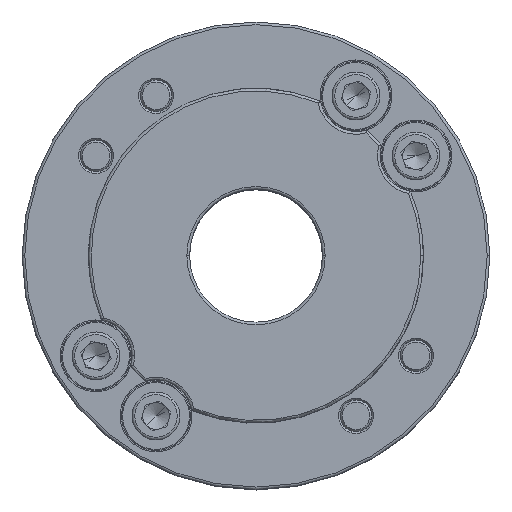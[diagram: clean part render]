
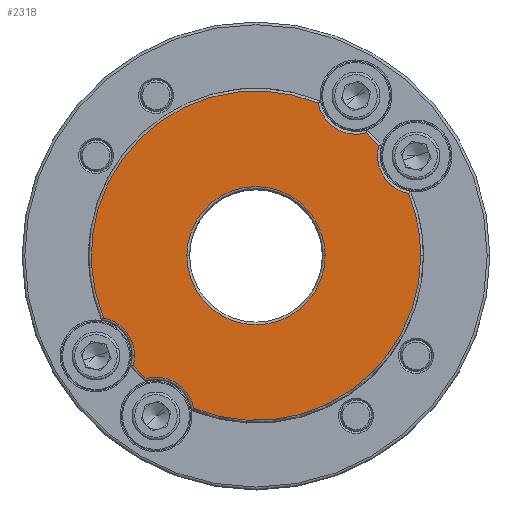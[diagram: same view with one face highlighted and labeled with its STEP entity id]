
A CAD part, top view. The second image highlights one B-rep face of the part: STEP entity #2318.
In plain terms, the highlighted planar face has unit normal (0, 0, 1).
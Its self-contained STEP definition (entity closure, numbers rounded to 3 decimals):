
#1749 = EDGE_CURVE ( 'NONE', #1750, #1751, #4729, .T. ) ;
#1750 = VERTEX_POINT ( 'NONE', #4749 ) ;
#1751 = VERTEX_POINT ( 'NONE', #4748 ) ;
#1790 = VERTEX_POINT ( 'NONE', #4862 ) ;
#1792 = EDGE_CURVE ( 'NONE', #1793, #1790, #4861, .T. ) ;
#1793 = VERTEX_POINT ( 'NONE', #4856 ) ;
#1881 = VERTEX_POINT ( 'NONE', #5094 ) ;
#1883 = EDGE_CURVE ( 'NONE', #1881, #1884, #5093, .T. ) ;
#1884 = VERTEX_POINT ( 'NONE', #5088 ) ;
#1954 = ORIENTED_EDGE ( 'NONE', *, *, #1955, .T. ) ;
#1955 = EDGE_CURVE ( 'NONE', #2264, #1750, #5219, .T. ) ;
#1956 = ORIENTED_EDGE ( 'NONE', *, *, #1749, .T. ) ;
#1957 = ORIENTED_EDGE ( 'NONE', *, *, #1958, .T. ) ;
#1958 = EDGE_CURVE ( 'NONE', #1751, #1959, #5178, .T. ) ;
#1959 = VERTEX_POINT ( 'NONE', #5173 ) ;
#1960 = ORIENTED_EDGE ( 'NONE', *, *, #1961, .T. ) ;
#1961 = EDGE_CURVE ( 'NONE', #1959, #1793, #5208, .T. ) ;
#1979 = ORIENTED_EDGE ( 'NONE', *, *, #1792, .T. ) ;
#1980 = ORIENTED_EDGE ( 'NONE', *, *, #1981, .T. ) ;
#1981 = EDGE_CURVE ( 'NONE', #1790, #2116, #5145, .T. ) ;
#2113 = EDGE_LOOP ( 'NONE', ( #2114, #2118, #2121, #2262, #1954, #1956, #1957, #1960, #1979, #1980 ) ) ;
#2114 = ORIENTED_EDGE ( 'NONE', *, *, #2115, .T. ) ;
#2115 = EDGE_CURVE ( 'NONE', #2116, #2117, #5547, .T. ) ;
#2116 = VERTEX_POINT ( 'NONE', #5542 ) ;
#2117 = VERTEX_POINT ( 'NONE', #5541 ) ;
#2118 = ORIENTED_EDGE ( 'NONE', *, *, #2119, .T. ) ;
#2119 = EDGE_CURVE ( 'NONE', #2117, #2120, #5703, .T. ) ;
#2120 = VERTEX_POINT ( 'NONE', #5704 ) ;
#2121 = ORIENTED_EDGE ( 'NONE', *, *, #2228, .T. ) ;
#2227 = ORIENTED_EDGE ( 'NONE', *, *, #1883, .T. ) ;
#2228 = EDGE_CURVE ( 'NONE', #2120, #2229, #5631, .T. ) ;
#2229 = VERTEX_POINT ( 'NONE', #5627 ) ;
#2262 = ORIENTED_EDGE ( 'NONE', *, *, #2263, .T. ) ;
#2263 = EDGE_CURVE ( 'NONE', #2229, #2264, #5646, .T. ) ;
#2264 = VERTEX_POINT ( 'NONE', #5642 ) ;
#2318 = ADVANCED_FACE ( 'NONE', ( #5846, #5821 ), #5827, .T. ) ;
#2319 = EDGE_LOOP ( 'NONE', ( #2320, #2227 ) ) ;
#2320 = ORIENTED_EDGE ( 'NONE', *, *, #2321, .T. ) ;
#2321 = EDGE_CURVE ( 'NONE', #1884, #1881, #5968, .T. ) ;
#4725 = DIRECTION ( 'NONE',  ( 1., 0., 0. ) ) ;
#4726 = DIRECTION ( 'NONE',  ( 0., 0., -1. ) ) ;
#4727 = CARTESIAN_POINT ( 'NONE',  ( -30.106, -18.812, 30. ) ) ;
#4728 = AXIS2_PLACEMENT_3D ( 'NONE', #4727, #4726, #4725 ) ;
#4729 = CIRCLE ( 'NONE', #4728, 7.25 ) ;
#4748 = CARTESIAN_POINT ( 'NONE',  ( -23.099, -20.675, 30. ) ) ;
#4749 = CARTESIAN_POINT ( 'NONE',  ( -22.856, -18.812, 30. ) ) ;
#4856 = CARTESIAN_POINT ( 'NONE',  ( -11.698, -28.708, 30. ) ) ;
#4857 = DIRECTION ( 'NONE',  ( 1., 0., 0. ) ) ;
#4858 = DIRECTION ( 'NONE',  ( 0., 0., 1. ) ) ;
#4859 = CARTESIAN_POINT ( 'NONE',  ( 0., 0., 30. ) ) ;
#4860 = AXIS2_PLACEMENT_3D ( 'NONE', #4859, #4858, #4857 ) ;
#4861 = CIRCLE ( 'NONE', #4860, 31. ) ;
#4862 = CARTESIAN_POINT ( 'NONE',  ( 31., 0., 30. ) ) ;
#5088 = CARTESIAN_POINT ( 'NONE',  ( 13., 0., 30. ) ) ;
#5089 = DIRECTION ( 'NONE',  ( 1., 0., 0. ) ) ;
#5090 = DIRECTION ( 'NONE',  ( 0., 0., -1. ) ) ;
#5091 = CARTESIAN_POINT ( 'NONE',  ( 0., 0., 30. ) ) ;
#5092 = AXIS2_PLACEMENT_3D ( 'NONE', #5091, #5090, #5089 ) ;
#5093 = CIRCLE ( 'NONE', #5092, 13. ) ;
#5094 = CARTESIAN_POINT ( 'NONE',  ( -13., 0., 30. ) ) ;
#5141 = DIRECTION ( 'NONE',  ( 1., 0., 0. ) ) ;
#5142 = DIRECTION ( 'NONE',  ( 0., 0., 1. ) ) ;
#5143 = CARTESIAN_POINT ( 'NONE',  ( 0., 0., 30. ) ) ;
#5144 = AXIS2_PLACEMENT_3D ( 'NONE', #5143, #5142, #5141 ) ;
#5145 = CIRCLE ( 'NONE', #5144, 31. ) ;
#5157 = DIRECTION ( 'NONE',  ( 1., 0., 0. ) ) ;
#5169 = DIRECTION ( 'NONE',  ( 0., 0., -1. ) ) ;
#5170 = CARTESIAN_POINT ( 'NONE',  ( -30.106, -18.812, 30. ) ) ;
#5171 = AXIS2_PLACEMENT_3D ( 'NONE', #5170, #5169, #5157 ) ;
#5173 = CARTESIAN_POINT ( 'NONE',  ( -20.675, -23.099, 30. ) ) ;
#5174 = DIRECTION ( 'NONE',  ( 1., 0., 0. ) ) ;
#5175 = DIRECTION ( 'NONE',  ( 0., 0., 1. ) ) ;
#5176 = CARTESIAN_POINT ( 'NONE',  ( 0., 0., 30. ) ) ;
#5177 = AXIS2_PLACEMENT_3D ( 'NONE', #5176, #5175, #5174 ) ;
#5178 = CIRCLE ( 'NONE', #5177, 31. ) ;
#5204 = DIRECTION ( 'NONE',  ( 1., 0., 0. ) ) ;
#5205 = DIRECTION ( 'NONE',  ( 0., 0., -1. ) ) ;
#5206 = CARTESIAN_POINT ( 'NONE',  ( -18.812, -30.106, 30. ) ) ;
#5207 = AXIS2_PLACEMENT_3D ( 'NONE', #5206, #5205, #5204 ) ;
#5208 = CIRCLE ( 'NONE', #5207, 7.25 ) ;
#5219 = CIRCLE ( 'NONE', #5171, 7.25 ) ;
#5541 = CARTESIAN_POINT ( 'NONE',  ( 23.099, 20.675, 30. ) ) ;
#5542 = CARTESIAN_POINT ( 'NONE',  ( 28.708, 11.698, 30. ) ) ;
#5543 = DIRECTION ( 'NONE',  ( 1., 0., 0. ) ) ;
#5544 = DIRECTION ( 'NONE',  ( 0., 0., -1. ) ) ;
#5545 = CARTESIAN_POINT ( 'NONE',  ( 30.106, 18.812, 30. ) ) ;
#5546 = AXIS2_PLACEMENT_3D ( 'NONE', #5545, #5544, #5543 ) ;
#5547 = CIRCLE ( 'NONE', #5546, 7.25 ) ;
#5627 = CARTESIAN_POINT ( 'NONE',  ( 11.698, 28.708, 30. ) ) ;
#5628 = DIRECTION ( 'NONE',  ( 1., 0., 0. ) ) ;
#5629 = DIRECTION ( 'NONE',  ( 0., 0., -1. ) ) ;
#5630 = AXIS2_PLACEMENT_3D ( 'NONE', #5637, #5629, #5628 ) ;
#5631 = CIRCLE ( 'NONE', #5630, 7.25 ) ;
#5637 = CARTESIAN_POINT ( 'NONE',  ( 18.812, 30.106, 30. ) ) ;
#5642 = CARTESIAN_POINT ( 'NONE',  ( -28.708, -11.698, 30. ) ) ;
#5643 = DIRECTION ( 'NONE',  ( 1., 0., 0. ) ) ;
#5644 = DIRECTION ( 'NONE',  ( 0., 0., 1. ) ) ;
#5645 = AXIS2_PLACEMENT_3D ( 'NONE', #5650, #5644, #5643 ) ;
#5646 = CIRCLE ( 'NONE', #5645, 31. ) ;
#5650 = CARTESIAN_POINT ( 'NONE',  ( 0., 0., 30. ) ) ;
#5699 = DIRECTION ( 'NONE',  ( 1., 0., 0. ) ) ;
#5700 = DIRECTION ( 'NONE',  ( 0., 0., 1. ) ) ;
#5701 = CARTESIAN_POINT ( 'NONE',  ( 0., 0., 30. ) ) ;
#5702 = AXIS2_PLACEMENT_3D ( 'NONE', #5701, #5700, #5699 ) ;
#5703 = CIRCLE ( 'NONE', #5702, 31. ) ;
#5704 = CARTESIAN_POINT ( 'NONE',  ( 20.675, 23.099, 30. ) ) ;
#5821 = FACE_OUTER_BOUND ( 'NONE', #2113, .T. ) ;
#5823 = DIRECTION ( 'NONE',  ( 1., 0., 0. ) ) ;
#5824 = DIRECTION ( 'NONE',  ( 0., 0., 1. ) ) ;
#5825 = CARTESIAN_POINT ( 'NONE',  ( 0., -96.941, 30. ) ) ;
#5826 = AXIS2_PLACEMENT_3D ( 'NONE', #5825, #5824, #5823 ) ;
#5827 = PLANE ( 'NONE',  #5826 ) ;
#5828 = CARTESIAN_POINT ( 'NONE',  ( 0., 0., 30. ) ) ;
#5846 = FACE_BOUND ( 'NONE', #2319, .T. ) ;
#5965 = DIRECTION ( 'NONE',  ( 1., 0., 0. ) ) ;
#5966 = DIRECTION ( 'NONE',  ( 0., 0., -1. ) ) ;
#5967 = AXIS2_PLACEMENT_3D ( 'NONE', #5828, #5966, #5965 ) ;
#5968 = CIRCLE ( 'NONE', #5967, 13. ) ;
